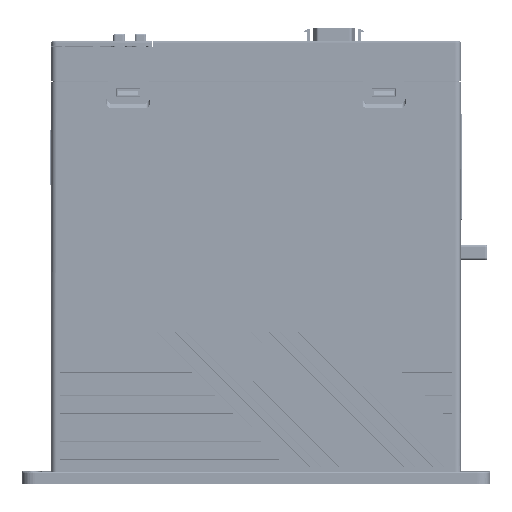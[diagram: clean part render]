
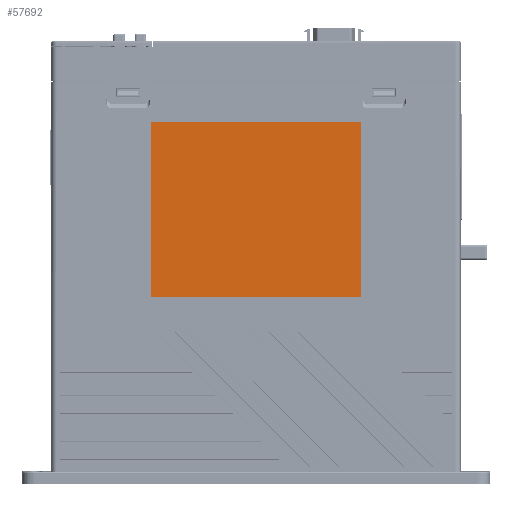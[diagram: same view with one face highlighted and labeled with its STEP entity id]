
A CAD part, top view. The second image highlights one B-rep face of the part: STEP entity #57692.
In plain terms, the highlighted planar face has unit normal (0, 0, 1).
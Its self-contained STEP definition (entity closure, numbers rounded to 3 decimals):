
#41481=DIRECTION('',(0.,-1.,0.));
#41482=VECTOR('',#41481,68.5);
#41483=CARTESIAN_POINT('',(41.,136.5,-0.3));
#41484=LINE('',#41483,#41482);
#41485=DIRECTION('',(-1.,0.,0.));
#41486=VECTOR('',#41485,82.);
#41487=CARTESIAN_POINT('',(41.,68.,-0.3));
#41488=LINE('',#41487,#41486);
#41489=DIRECTION('',(0.,1.,0.));
#41490=VECTOR('',#41489,68.5);
#41491=CARTESIAN_POINT('',(-41.,68.,-0.3));
#41492=LINE('',#41491,#41490);
#41493=DIRECTION('',(1.,0.,0.));
#41494=VECTOR('',#41493,82.);
#41495=CARTESIAN_POINT('',(-41.,136.5,-0.3));
#41496=LINE('',#41495,#41494);
#45236=CARTESIAN_POINT('',(41.,68.,-0.3));
#45237=VERTEX_POINT('',#45236);
#45238=CARTESIAN_POINT('',(41.,136.5,-0.3));
#45239=VERTEX_POINT('',#45238);
#45240=CARTESIAN_POINT('',(-41.,68.,-0.3));
#45241=VERTEX_POINT('',#45240);
#45242=CARTESIAN_POINT('',(-41.,136.5,-0.3));
#45243=VERTEX_POINT('',#45242);
#57681=CARTESIAN_POINT('',(0.,0.,-0.3));
#57682=DIRECTION('',(0.,0.,1.));
#57683=DIRECTION('',(-1.,0.,0.));
#57684=AXIS2_PLACEMENT_3D('',#57681,#57682,#57683);
#57685=PLANE('',#57684);
#57686=ORIENTED_EDGE('',*,*,#57633,.T.);
#57687=ORIENTED_EDGE('',*,*,#57648,.T.);
#57688=ORIENTED_EDGE('',*,*,#57662,.T.);
#57689=ORIENTED_EDGE('',*,*,#57675,.T.);
#57690=EDGE_LOOP('',(#57686,#57687,#57688,#57689));
#57691=FACE_OUTER_BOUND('',#57690,.F.);
#57692=ADVANCED_FACE('',(#57691),#57685,.T.);
#57633=EDGE_CURVE('',#45239,#45237,#41484,.T.);
#57648=EDGE_CURVE('',#45237,#45241,#41488,.T.);
#57662=EDGE_CURVE('',#45241,#45243,#41492,.T.);
#57675=EDGE_CURVE('',#45243,#45239,#41496,.T.);
